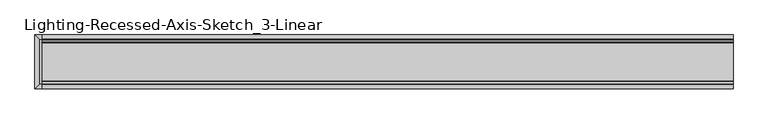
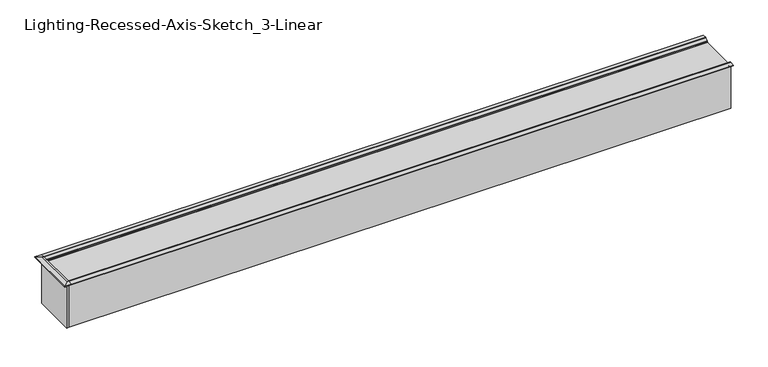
"""IFC4 building model written with IfcOpenShell, lengths in millimetres: light fixture geometry, Lighting-Recessed-Axis-Sketch_3-Linear : SK3R-L-4-1300-80-35-SO."""

from ifc_helpers import new_model, si_unit, point, frame, frame_2d, origin, place, context, project, spatial, polyline, circle_curve, trimmed, segment, composite_curve, outline, extrude, faceted_brep, source, transform, mapped, element, save


def lighting_recessed_axis_sketch_3_linear_7ed75781(model_context):
    return source(origin(), model_context, "Body", "SolidModel", [
        faceted_brep([(-621.6904, 47.6254461, 0.0), (-621.6904, 47.6254461, 1.2507876), (-609.6, 47.6254461, 1.2511871), (-609.6, 47.6254461, 0.0), (-621.6904, -47.6254461, 1.2507876), (-621.6904, -47.6254461, 0.0), (-609.6, -47.6254461, 0.0), (-609.6, -47.6254461, 1.2511871), (-609.6, 39.6875, 0.0), (-613.7529, 39.6875, 0.0), (-613.7529, -39.6875, 0.0), (-609.6, -39.6875, 0.0), (-613.7529, -39.6908857, 2.3295189), (-613.7529, 39.6908857, 2.3295189), (-609.6, -39.6875, 2.329979), (-609.6, 39.6908857, 2.3295189), (-609.6, -39.6875, -87.376), (-609.6, 39.6875, -87.376), (-613.7529, 39.6875, -87.376), (-613.7529, -39.6875, -87.376)], [[[0, 1, 2, 3]], [[4, 5, 6, 7]], [[5, 0, 3, 8, 9, 10, 11, 6]], [[1, 0, 5, 4]], [[1, 4, 12, 13]], [[12, 4, 7, 14]], [[1, 13, 15, 2]], [[6, 11, 16, 17, 8, 3, 2, 15, 14, 7]], [[18, 19, 10, 9]], [[19, 18, 17, 16]], [[19, 16, 11, 10]], [[14, 15, 13, 12]], [[17, 18, 9, 8]]]),
        extrude(outline(polyline([(35.2425, -1.397), (38.89375, 2.3295795), (39.6875, 2.3295795), (47.6254461, 1.2507876), (47.6254461, 0.0), (39.6875, 0.0), (39.6875, -87.376), (36.1315, -87.376), (34.6075, -85.852), (34.6075, -83.693), (35.8775, -83.693), (35.8775, -85.471), (37.7825, -85.471), (37.7825, -1.397), (35.2425, -1.397)])), frame((-609.6, 0.0, 0.0), z_axis=(1.0, 0.0, 0.0), x_axis=(0.0, 1.0, 0.0)), (0.0, 0.0, 1.0), 1219.2),
        extrude(outline(composite_curve([segment(polyline([(34.4369494, -70.365743), (34.5887361, -77.9983744), (35.9859878, -77.9983744)]), True, "CONTINUOUS"), segment(trimmed(circle_curve(frame_2d((35.9859878, -78.7921244)), 0.79375), [point((35.9859878, -77.9983744))], [point((36.7779365, -78.8455689))], False, "CARTESIAN"), True, "CONTINUOUS"), segment(polyline([(36.7779365, -78.8455689), (36.5675604, -81.9629588)]), True, "CONTINUOUS"), segment(trimmed(circle_curve(frame_2d((35.1426868, -81.8582463)), 1.428716), [point((36.5675604, -81.9629588))], [point((36.146856, -82.8745502))], False, "CARTESIAN"), True, "CONTINUOUS"), segment(trimmed(circle_curve(frame_2d((35.5073083, -82.4121885)), 0.7891766), [point((36.146856, -82.8745502))], [point((34.9129694, -82.931381))], False, "CARTESIAN"), True, "CONTINUOUS"), segment(polyline([(34.9129694, -82.931381), (33.9271376, -81.8028629)]), True, "CONTINUOUS"), segment(trimmed(circle_curve(frame_2d((34.3097188, -81.468654)), 0.508), [point((33.9271376, -81.8028629))], [point((34.3097188, -80.960654))], False, "CARTESIAN"), True, "CONTINUOUS"), segment(polyline([(34.3097188, -80.960654), (35.6168897, -80.960654), (35.7107202, -79.570257)]), True, "CONTINUOUS"), segment(trimmed(circle_curve(frame_2d((35.2038731, -79.5360526)), 0.508), [point((35.7107202, -79.570257))], [point((35.2380775, -79.0292054))], True, "CARTESIAN"), True, "CONTINUOUS"), segment(polyline([(35.2380775, -79.0292054), (33.5908242, -78.918041), (33.393867, -69.0139992), (33.6080539, -62.4210731)]), True, "CONTINUOUS"), segment(trimmed(circle_curve(frame_2d((34.115786, -62.4375679)), 0.508), [point((33.6080539, -62.4210731))], [point((34.6235182, -62.4540628))], False, "CARTESIAN"), True, "CONTINUOUS"), segment(polyline([(34.6235182, -62.4540628), (34.4338694, -68.2916773), (34.4369494, -70.365743)]), True, "CONTINUOUS")], self_intersect=False)), frame((-609.6, 0.0, 0.0), z_axis=(1.0, 0.0, 0.0), x_axis=(0.0, 1.0, 0.0)), (0.0, 0.0, 1.0), 1219.2),
        extrude(outline(composite_curve([segment(polyline([(34.4369494, -14.6806775), (34.4338694, -16.7547432), (34.6235182, -22.5923577)]), True, "CONTINUOUS"), segment(trimmed(circle_curve(frame_2d((34.115786, -22.6088525)), 0.508), [point((34.6235182, -22.5923577))], [point((33.6080539, -22.6253474))], False, "CARTESIAN"), True, "CONTINUOUS"), segment(polyline([(33.6080539, -22.6253474), (33.393867, -16.0324213), (33.5908242, -6.1283795), (35.2380775, -6.0172151)]), True, "CONTINUOUS"), segment(trimmed(circle_curve(frame_2d((35.2038731, -5.5103679)), 0.508), [point((35.2380775, -6.0172151))], [point((35.7107202, -5.4761635))], True, "CARTESIAN"), True, "CONTINUOUS"), segment(polyline([(35.7107202, -5.4761635), (35.6168897, -4.0857665), (34.3097188, -4.0857665)]), True, "CONTINUOUS"), segment(trimmed(circle_curve(frame_2d((34.3097188, -3.5777665)), 0.508), [point((34.3097188, -4.0857665))], [point((33.9271376, -3.2435576))], False, "CARTESIAN"), True, "CONTINUOUS"), segment(polyline([(33.9271376, -3.2435576), (34.9129694, -2.1150395)]), True, "CONTINUOUS"), segment(trimmed(circle_curve(frame_2d((35.5073083, -2.634232)), 0.7891766), [point((34.9129694, -2.1150395))], [point((36.146856, -2.1718703))], False, "CARTESIAN"), True, "CONTINUOUS"), segment(trimmed(circle_curve(frame_2d((35.1426868, -3.1881742)), 1.428716), [point((36.146856, -2.1718703))], [point((36.5675604, -3.0834617))], False, "CARTESIAN"), True, "CONTINUOUS"), segment(polyline([(36.5675604, -3.0834617), (36.7779365, -6.2008516)]), True, "CONTINUOUS"), segment(trimmed(circle_curve(frame_2d((35.9859878, -6.2542961)), 0.79375), [point((36.7779365, -6.2008516))], [point((35.9859878, -7.0480461))], False, "CARTESIAN"), True, "CONTINUOUS"), segment(polyline([(35.9859878, -7.0480461), (34.5887361, -7.0480461), (34.4369494, -14.6806775)]), True, "CONTINUOUS")], self_intersect=False)), frame((-609.6, 0.0, 0.0), z_axis=(1.0, 0.0, 0.0), x_axis=(0.0, 1.0, 0.0)), (0.0, 0.0, 1.0), 1219.2),
        extrude(outline(polyline([(-35.2425, -1.397), (-37.7825, -1.397), (-37.7825, -85.471), (-35.8775, -85.471), (-35.8775, -83.693), (-34.6075, -83.693), (-34.6075, -85.852), (-36.1315, -87.376), (-39.6875, -87.376), (-39.6875, 0.0), (-47.6254461, 0.0), (-47.6254461, 1.2507876), (-39.6875, 2.3295795), (-38.89375, 2.3295795), (-35.2425, -1.397)])), frame((-609.6, 0.0, 0.0), z_axis=(1.0, 0.0, 0.0), x_axis=(0.0, 1.0, 0.0)), (0.0, 0.0, 1.0), 1219.2),
        extrude(outline(composite_curve([segment(polyline([(-34.4369494, -70.365743), (-34.4338694, -68.2916773), (-34.6235182, -62.4540628)]), True, "CONTINUOUS"), segment(trimmed(circle_curve(frame_2d((-34.115786, -62.4375679)), 0.508), [point((-34.6235182, -62.4540628))], [point((-33.6080539, -62.4210731))], False, "CARTESIAN"), True, "CONTINUOUS"), segment(polyline([(-33.6080539, -62.4210731), (-33.393867, -69.0139992), (-33.5908242, -78.918041), (-35.2380775, -79.0292054)]), True, "CONTINUOUS"), segment(trimmed(circle_curve(frame_2d((-35.2038731, -79.5360526)), 0.508), [point((-35.2380775, -79.0292054))], [point((-35.7107202, -79.570257))], True, "CARTESIAN"), True, "CONTINUOUS"), segment(polyline([(-35.7107202, -79.570257), (-35.6168897, -80.960654), (-34.3097188, -80.960654)]), True, "CONTINUOUS"), segment(trimmed(circle_curve(frame_2d((-34.3097188, -81.468654)), 0.508), [point((-34.3097188, -80.960654))], [point((-33.9271376, -81.8028629))], False, "CARTESIAN"), True, "CONTINUOUS"), segment(polyline([(-33.9271376, -81.8028629), (-34.9129694, -82.931381)]), True, "CONTINUOUS"), segment(trimmed(circle_curve(frame_2d((-35.5073083, -82.4121885)), 0.7891766), [point((-34.9129694, -82.931381))], [point((-36.146856, -82.8745502))], False, "CARTESIAN"), True, "CONTINUOUS"), segment(trimmed(circle_curve(frame_2d((-35.1426868, -81.8582463)), 1.428716), [point((-36.146856, -82.8745502))], [point((-36.5675604, -81.9629588))], False, "CARTESIAN"), True, "CONTINUOUS"), segment(polyline([(-36.5675604, -81.9629588), (-36.7779365, -78.8455689)]), True, "CONTINUOUS"), segment(trimmed(circle_curve(frame_2d((-35.9859878, -78.7921244)), 0.79375), [point((-36.7779365, -78.8455689))], [point((-35.9859878, -77.9983744))], False, "CARTESIAN"), True, "CONTINUOUS"), segment(polyline([(-35.9859878, -77.9983744), (-34.5887361, -77.9983744), (-34.4369494, -70.365743)]), True, "CONTINUOUS")], self_intersect=False)), frame((-609.6, 0.0, 0.0), z_axis=(1.0, 0.0, 0.0), x_axis=(0.0, 1.0, 0.0)), (0.0, 0.0, 1.0), 1219.2),
        extrude(outline(composite_curve([segment(polyline([(-34.4369494, -14.6806775), (-34.5887361, -7.0480461), (-35.9859878, -7.0480461)]), True, "CONTINUOUS"), segment(trimmed(circle_curve(frame_2d((-35.9859878, -6.2542961)), 0.79375), [point((-35.9859878, -7.0480461))], [point((-36.7779365, -6.2008516))], False, "CARTESIAN"), True, "CONTINUOUS"), segment(polyline([(-36.7779365, -6.2008516), (-36.5675604, -3.0834617)]), True, "CONTINUOUS"), segment(trimmed(circle_curve(frame_2d((-35.1426868, -3.1881742)), 1.428716), [point((-36.5675604, -3.0834617))], [point((-36.146856, -2.1718703))], False, "CARTESIAN"), True, "CONTINUOUS"), segment(trimmed(circle_curve(frame_2d((-35.5073083, -2.634232)), 0.7891766), [point((-36.146856, -2.1718703))], [point((-34.9129694, -2.1150395))], False, "CARTESIAN"), True, "CONTINUOUS"), segment(polyline([(-34.9129694, -2.1150395), (-33.9271376, -3.2435576)]), True, "CONTINUOUS"), segment(trimmed(circle_curve(frame_2d((-34.3097188, -3.5777665)), 0.508), [point((-33.9271376, -3.2435576))], [point((-34.3097188, -4.0857665))], False, "CARTESIAN"), True, "CONTINUOUS"), segment(polyline([(-34.3097188, -4.0857665), (-35.6168897, -4.0857665), (-35.7107202, -5.4761635)]), True, "CONTINUOUS"), segment(trimmed(circle_curve(frame_2d((-35.2038731, -5.5103679)), 0.508), [point((-35.7107202, -5.4761635))], [point((-35.2380775, -6.0172151))], True, "CARTESIAN"), True, "CONTINUOUS"), segment(polyline([(-35.2380775, -6.0172151), (-33.5908242, -6.1283795), (-33.393867, -16.0324213), (-33.6080539, -22.6253474)]), True, "CONTINUOUS"), segment(trimmed(circle_curve(frame_2d((-34.115786, -22.6088525)), 0.508), [point((-33.6080539, -22.6253474))], [point((-34.6235182, -22.5923577))], False, "CARTESIAN"), True, "CONTINUOUS"), segment(polyline([(-34.6235182, -22.5923577), (-34.4338694, -16.7547432), (-34.4369494, -14.6806775)]), True, "CONTINUOUS")], self_intersect=False)), frame((-609.6, 0.0, 0.0), z_axis=(1.0, 0.0, 0.0), x_axis=(0.0, 1.0, 0.0)), (0.0, 0.0, 1.0), 1219.2),
        extrude(outline(polyline([(-609.6, -35.56), (-609.6, 35.56), (609.6, 35.56), (609.6, -35.56), (-609.6, -35.56)])), frame((0.0, 0.0, -80.9395319), z_axis=(0.0, 0.0, 1.0), x_axis=(1.0, 0.0, 0.0)), (0.0, 0.0, 1.0), 1.27),
        extrude(outline(polyline([(609.6, 35.56), (609.6, -35.56), (-609.6, -35.56), (-609.6, 35.56), (609.6, 35.56)])), frame((0.0, 0.0, -5.563597), z_axis=(0.0, 0.0, 1.0), x_axis=(1.0, 0.0, 0.0)), (0.0, 0.0, 1.0), 1.27),
    ])


if __name__ == "__main__":
    model = new_model("IFC4")
    model_context = context("Model", 3, world=origin())
    ifc_project = project(units=[si_unit("LENGTHUNIT", "METRE", prefix="MILLI")], contexts=[model_context])
    site = spatial("IfcSite", under=ifc_project)
    building = spatial("IfcBuilding", under=site)
    placement = place(None, origin())
    lighting_recessed_axis_sketch_3_linear_shape = lighting_recessed_axis_sketch_3_linear_7ed75781(model_context)
    element("IfcLightFixture", 1, ObjectType="Lighting-Recessed-Axis-Sketch_3-Linear : SK3R-L-4-1300-80-35-SO", at=placement, inside=building, context=model_context, shape_type="MappedRepresentation", body=[
        mapped(lighting_recessed_axis_sketch_3_linear_shape, transform((0.0, 0.0, 0.0), x_axis=(1.0, 0.0, 0.0), y_axis=(0.0, 1.0, 0.0), z_axis=(0.0, 0.0, 1.0))),
    ])
    save(model, "model.ifc")
